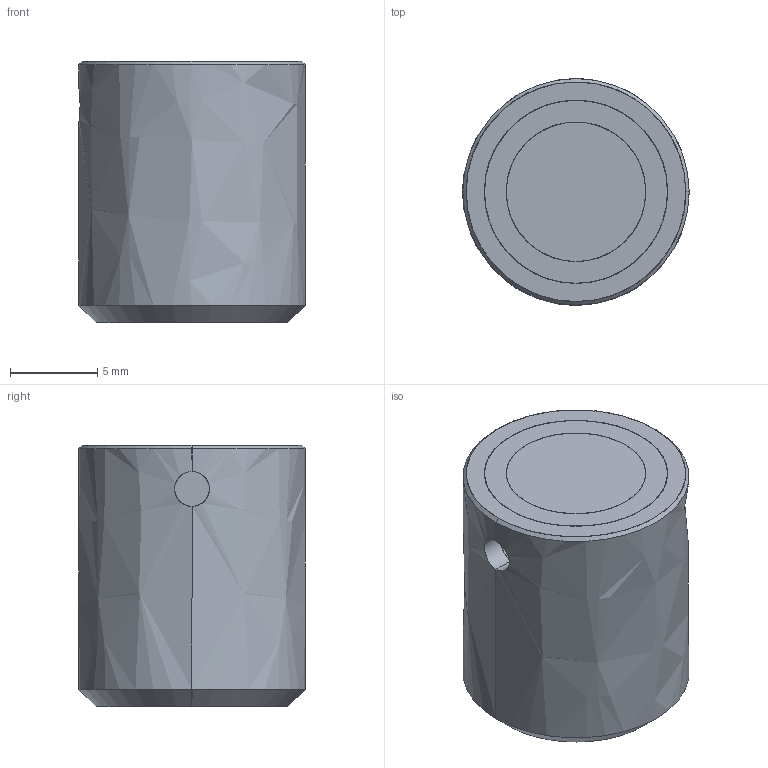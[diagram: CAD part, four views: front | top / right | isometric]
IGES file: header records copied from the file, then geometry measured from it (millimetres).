
Global section: file name: E:\UnigraphicsGraphicData\MISUMI_PRESS-PARTS\IGES\3d_mg13_00553_r00.igs; native system: NX V5.0; preprocessor: UGS NX IGES V5.0; author: MISUMI; date: 20110105.161400; units: millimetre
Bounding box: 13 x 13 x 15 mm (x, y, z)
Surface area: 1801.1 mm2 (no closed solid volume)
Topology: 0 solids, 0 shells, 35 faces, 298 edges, 298 vertices
Faces by surface type: bspline 35
